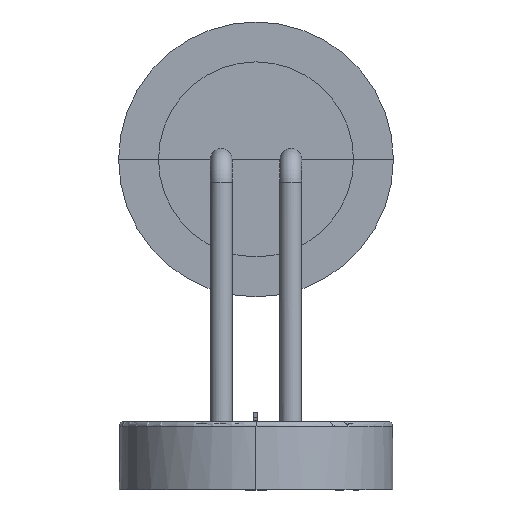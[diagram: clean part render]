
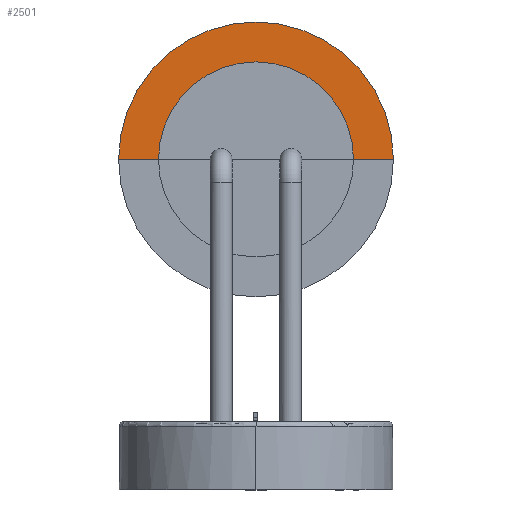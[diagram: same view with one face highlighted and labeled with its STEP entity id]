
A CAD part, front view. The second image highlights one B-rep face of the part: STEP entity #2501.
In plain terms, the highlighted planar face has unit normal (0, -1, 0).
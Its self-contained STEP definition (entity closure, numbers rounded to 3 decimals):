
#182=PLANE('',#2707);
#278=FACE_OUTER_BOUND('',#446,.T.);
#446=EDGE_LOOP('',(#1886,#1887,#1888,#1889));
#597=CIRCLE('',#2702,25.171);
#600=CIRCLE('',#2708,60.272);
#752=LINE('',#4297,#944);
#753=LINE('',#4298,#945);
#944=VECTOR('',#3142,304.8);
#945=VECTOR('',#3143,304.8);
#1128=VERTEX_POINT('',#4284);
#1129=VERTEX_POINT('',#4285);
#1130=VERTEX_POINT('',#4294);
#1131=VERTEX_POINT('',#4295);
#1391=EDGE_CURVE('',#1128,#1129,#597,.T.);
#1396=EDGE_CURVE('',#1130,#1131,#600,.T.);
#1397=EDGE_CURVE('',#1128,#1130,#752,.T.);
#1398=EDGE_CURVE('',#1131,#1129,#753,.T.);
#1886=ORIENTED_EDGE('',*,*,#1396,.F.);
#1887=ORIENTED_EDGE('',*,*,#1397,.F.);
#1888=ORIENTED_EDGE('',*,*,#1391,.T.);
#1889=ORIENTED_EDGE('',*,*,#1398,.F.);
#2501=ADVANCED_FACE('',(#278),#182,.T.);
#2702=AXIS2_PLACEMENT_3D('',#4286,#3126,#3127);
#2707=AXIS2_PLACEMENT_3D('',#4293,#3138,#3139);
#2708=AXIS2_PLACEMENT_3D('',#4296,#3140,#3141);
#3126=DIRECTION('center_axis',(0.,1.,0.));
#3127=DIRECTION('ref_axis',(-1.,0.,0.));
#3138=DIRECTION('center_axis',(0.,-1.,0.));
#3139=DIRECTION('ref_axis',(-1.,0.,0.));
#3140=DIRECTION('center_axis',(0.,1.,0.));
#3141=DIRECTION('ref_axis',(-1.,0.,0.));
#3142=DIRECTION('',(-1.,0.,0.));
#3143=DIRECTION('',(-1.,0.,0.));
#4284=CARTESIAN_POINT('',(-25.171,189.,145.004));
#4285=CARTESIAN_POINT('',(25.171,189.,145.004));
#4286=CARTESIAN_POINT('Origin',(0.,189.,145.004));
#4293=CARTESIAN_POINT('Origin',(0.,189.,145.004));
#4294=CARTESIAN_POINT('',(-60.272,189.,145.004));
#4295=CARTESIAN_POINT('',(60.272,189.,145.004));
#4296=CARTESIAN_POINT('Origin',(0.,189.,145.004));
#4297=CARTESIAN_POINT('',(-25.171,189.,145.004));
#4298=CARTESIAN_POINT('',(60.272,189.,145.004));
